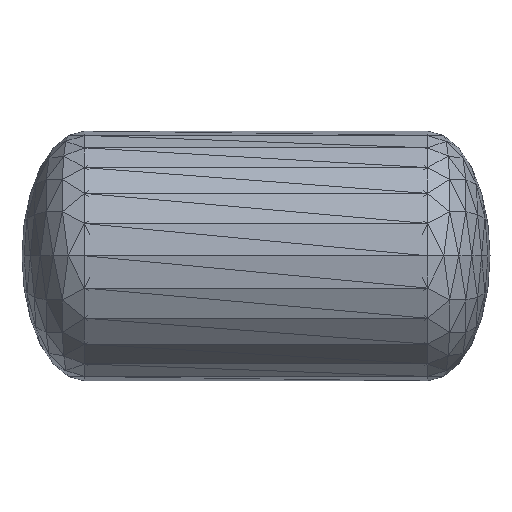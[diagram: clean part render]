
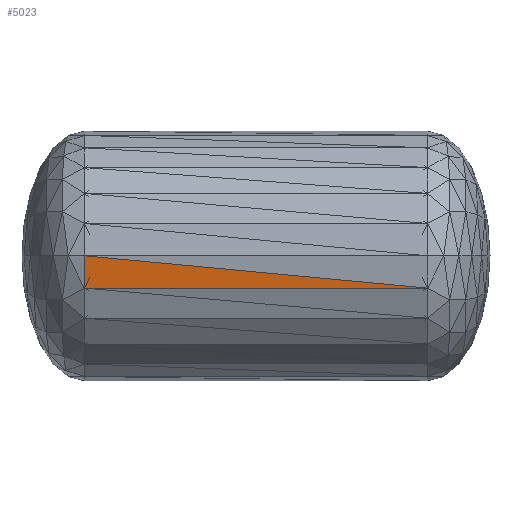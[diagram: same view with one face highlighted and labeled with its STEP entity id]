
A CAD part, top view. The second image highlights one B-rep face of the part: STEP entity #5023.
In plain terms, the highlighted planar face has unit normal (0, 0.131, -0.991).
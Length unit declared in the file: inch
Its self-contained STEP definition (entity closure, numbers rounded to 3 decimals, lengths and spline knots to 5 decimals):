
#4568=CARTESIAN_POINT('',(0.24754,-0.04667,0.44381));
#4569=VERTEX_POINT('',#4568);
#4752=CARTESIAN_POINT('',(-0.24746,-0.00009,0.45005));
#4753=VERTEX_POINT('',#4752);
#4787=CARTESIAN_POINT('',(0.24754,-0.04667,0.44381));
#4788=DIRECTION('',(-0.996,0.094,0.013));
#4789=VECTOR('',#4788,0.49723);
#4790=LINE('',#4787,#4789);
#4791=EDGE_CURVE('',#4569,#4753,#4790,.T.);
#4996=CARTESIAN_POINT('',(-0.24746,-0.04667,0.44391));
#4997=VERTEX_POINT('',#4996);
#4998=CARTESIAN_POINT('',(-0.24746,-0.04667,0.44391));
#4999=DIRECTION('',(0.,0.991,0.131));
#5000=VECTOR('',#4999,0.04699);
#5001=LINE('',#4998,#5000);
#5002=EDGE_CURVE('',#4997,#4753,#5001,.T.);
#5004=CARTESIAN_POINT('',(0.24754,-0.04667,0.44381));
#5005=DIRECTION('',(-1.,0.,0.));
#5006=VECTOR('',#5005,0.495);
#5007=LINE('',#5004,#5006);
#5008=EDGE_CURVE('',#4569,#4997,#5007,.T.);
#5013=CARTESIAN_POINT('',(-0.24746,-0.04667,0.44391));
#5014=DIRECTION('',(0.,-0.131,0.991));
#5015=DIRECTION('',(1.,0.,0.));
#5016=AXIS2_PLACEMENT_3D('',#5013,#5014,#5015);
#5017=PLANE('',#5016);
#5018=ORIENTED_EDGE('',*,*,#5002,.T.);
#5019=ORIENTED_EDGE('',*,*,#4791,.F.);
#5020=ORIENTED_EDGE('',*,*,#5008,.T.);
#5021=EDGE_LOOP('',(#5018,#5019,#5020));
#5022=FACE_BOUND('',#5021,.T.);
#5023=ADVANCED_FACE('',(#5022),#5017,.F.);
